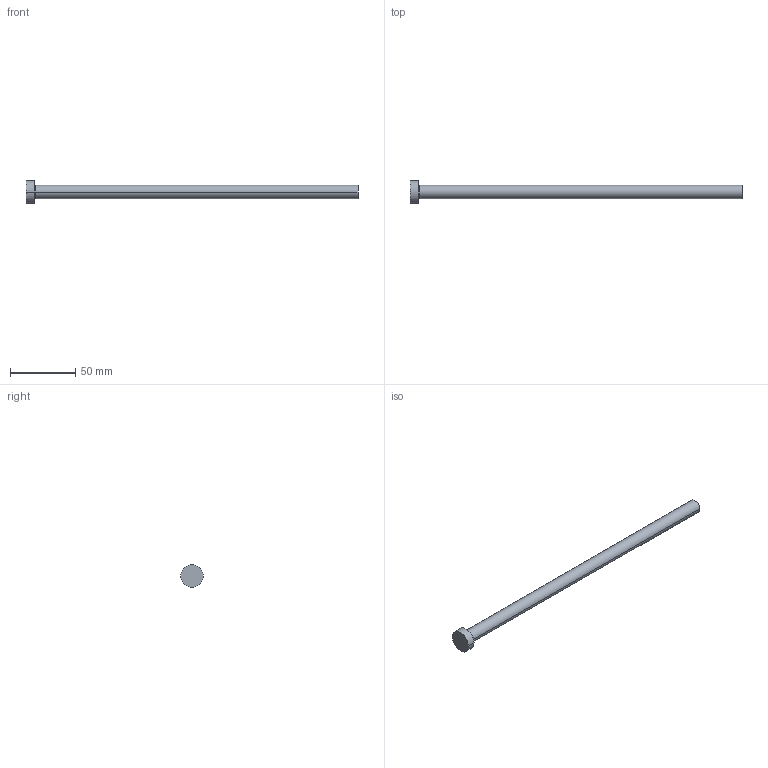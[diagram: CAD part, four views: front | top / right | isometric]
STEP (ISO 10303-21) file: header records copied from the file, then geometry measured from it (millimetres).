
FILE_DESCRIPTION (( 'STEP AP214' ), '1' );
FILE_NAME ('P27-10.STEP', '2020-03-12T10:07:24', ( '' ), ( '' ), 'SwSTEP 2.0', 'SolidWorks 2018', '' );
FILE_SCHEMA (( 'AUTOMOTIVE_DESIGN' ));
Length unit declared in the file: inch
Products named in the file (1): P27-10
Bounding box: 254 x 17.46 x 17.46 mm (x, y, z)
Volume: 22204 mm3; surface area: 8832.7 mm2
Topology: 1 solids, 1 shells, 13 faces, 24 edges, 14 vertices
Faces by surface type: cone 4, cylinder 4, plane 3, torus 2
Entity records: 366 total; most frequent: DIRECTION 68, CARTESIAN_POINT 52, ORIENTED_EDGE 48, AXIS2_PLACEMENT_3D 30, EDGE_CURVE 24, CIRCLE 16, EDGE_LOOP 14, VERTEX_POINT 14
